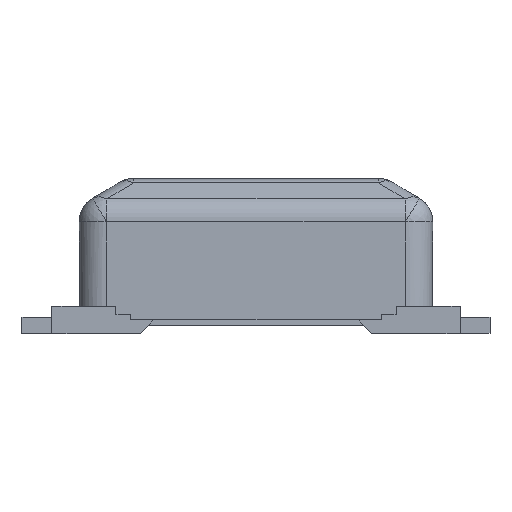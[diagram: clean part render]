
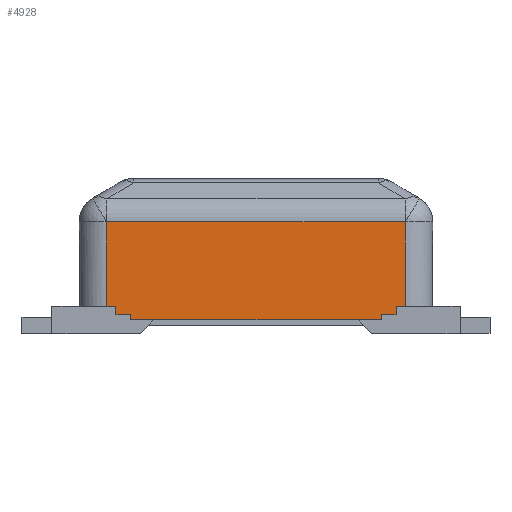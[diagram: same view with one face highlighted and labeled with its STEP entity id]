
A CAD part, left-side view. The second image highlights one B-rep face of the part: STEP entity #4928.
In plain terms, the highlighted planar face has unit normal (-1, 0, 0).
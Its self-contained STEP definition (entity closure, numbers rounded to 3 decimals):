
#3616=CARTESIAN_POINT('Vertex',(6.72,0.55,0.38)) ;
#3723=CARTESIAN_POINT('Vertex',(6.72,-0.549,0.38)) ;
#3819=CARTESIAN_POINT('Vertex',(6.72,0.55,0.07)) ;
#3822=CARTESIAN_POINT('Line Origine',(6.72,0.55,0.225)) ;
#3838=CARTESIAN_POINT('Vertex',(6.72,0.515,0.07)) ;
#3843=CARTESIAN_POINT('Line Origine',(6.72,0.533,0.07)) ;
#4798=CARTESIAN_POINT('Vertex',(6.72,-0.55,0.07)) ;
#4801=CARTESIAN_POINT('Line Origine',(6.72,-0.533,0.07)) ;
#4805=CARTESIAN_POINT('Vertex',(6.72,-0.515,0.07)) ;
#4833=CARTESIAN_POINT('Line Origine',(6.72,-0.55,0.225)) ;
#4850=CARTESIAN_POINT('Line Origine',(6.72,0.,0.381)) ;
#4862=CARTESIAN_POINT('Axis2P3D Location',(6.72,0.,0.)) ;
#4867=CARTESIAN_POINT('Line Origine',(6.72,-0.46,0.03)) ;
#4871=CARTESIAN_POINT('Vertex',(6.72,-0.46,0.02)) ;
#4873=CARTESIAN_POINT('Vertex',(6.72,-0.46,0.04)) ;
#4876=CARTESIAN_POINT('Line Origine',(6.72,-0.488,0.04)) ;
#4880=CARTESIAN_POINT('Vertex',(6.72,-0.515,0.04)) ;
#4883=CARTESIAN_POINT('Line Origine',(6.72,-0.515,0.055)) ;
#4888=CARTESIAN_POINT('Line Origine',(6.72,0.515,0.055)) ;
#4892=CARTESIAN_POINT('Vertex',(6.72,0.515,0.04)) ;
#4895=CARTESIAN_POINT('Line Origine',(6.72,0.488,0.04)) ;
#4899=CARTESIAN_POINT('Vertex',(6.72,0.46,0.04)) ;
#4902=CARTESIAN_POINT('Line Origine',(6.72,0.46,0.03)) ;
#4906=CARTESIAN_POINT('Vertex',(6.72,0.46,0.02)) ;
#4909=CARTESIAN_POINT('Line Origine',(6.72,0.,0.02)) ;
#3823=DIRECTION('Vector Direction',(0.,0.,1.)) ;
#3844=DIRECTION('Vector Direction',(0.,-1.,0.)) ;
#4802=DIRECTION('Vector Direction',(0.,-1.,0.)) ;
#4834=DIRECTION('Vector Direction',(0.,0.,-1.)) ;
#4851=DIRECTION('Vector Direction',(0.,-1.,0.)) ;
#4863=DIRECTION('Axis2P3D Direction',(1.,0.,0.)) ;
#4864=DIRECTION('Axis2P3D XDirection',(0.,1.,0.)) ;
#4868=DIRECTION('Vector Direction',(0.,0.,-1.)) ;
#4877=DIRECTION('Vector Direction',(0.,1.,0.)) ;
#4884=DIRECTION('Vector Direction',(0.,0.,1.)) ;
#4889=DIRECTION('Vector Direction',(0.,0.,1.)) ;
#4896=DIRECTION('Vector Direction',(0.,1.,0.)) ;
#4903=DIRECTION('Vector Direction',(0.,0.,-1.)) ;
#4910=DIRECTION('Vector Direction',(0.,-1.,0.)) ;
#4865=AXIS2_PLACEMENT_3D('Plane Axis2P3D',#4862,#4863,#4864) ;
#4915=ORIENTED_EDGE('',*,*,#4875,.T.) ;
#4916=ORIENTED_EDGE('',*,*,#4882,.T.) ;
#4917=ORIENTED_EDGE('',*,*,#4887,.T.) ;
#4918=ORIENTED_EDGE('',*,*,#4807,.T.) ;
#4919=ORIENTED_EDGE('',*,*,#4837,.T.) ;
#4920=ORIENTED_EDGE('',*,*,#4854,.T.) ;
#4921=ORIENTED_EDGE('',*,*,#3826,.F.) ;
#4922=ORIENTED_EDGE('',*,*,#3847,.F.) ;
#4923=ORIENTED_EDGE('',*,*,#4894,.F.) ;
#4924=ORIENTED_EDGE('',*,*,#4901,.F.) ;
#4925=ORIENTED_EDGE('',*,*,#4908,.F.) ;
#4926=ORIENTED_EDGE('',*,*,#4913,.F.) ;
#3824=VECTOR('Line Direction',#3823,1.) ;
#3845=VECTOR('Line Direction',#3844,1.) ;
#4803=VECTOR('Line Direction',#4802,1.) ;
#4835=VECTOR('Line Direction',#4834,1.) ;
#4852=VECTOR('Line Direction',#4851,1.) ;
#4869=VECTOR('Line Direction',#4868,1.) ;
#4878=VECTOR('Line Direction',#4877,1.) ;
#4885=VECTOR('Line Direction',#4884,1.) ;
#4890=VECTOR('Line Direction',#4889,1.) ;
#4897=VECTOR('Line Direction',#4896,1.) ;
#4904=VECTOR('Line Direction',#4903,1.) ;
#4911=VECTOR('Line Direction',#4910,1.) ;
#4928=ADVANCED_FACE('\X2\FF8AFF9FFF70FF82\X0\ \X2\FF8EFF9EFF83FF9EFF68FF70\X0\',(#4927),#4866,.F.) ;
#3826=EDGE_CURVE('',#3820,#3617,#3825,.T.) ;
#3847=EDGE_CURVE('',#3839,#3820,#3846,.F.) ;
#4807=EDGE_CURVE('',#4806,#4799,#4804,.T.) ;
#4837=EDGE_CURVE('',#4799,#3724,#4836,.F.) ;
#4854=EDGE_CURVE('',#3724,#3617,#4853,.F.) ;
#4875=EDGE_CURVE('',#4872,#4874,#4870,.F.) ;
#4882=EDGE_CURVE('',#4874,#4881,#4879,.F.) ;
#4887=EDGE_CURVE('',#4881,#4806,#4886,.T.) ;
#4894=EDGE_CURVE('',#4893,#3839,#4891,.T.) ;
#4901=EDGE_CURVE('',#4900,#4893,#4898,.T.) ;
#4908=EDGE_CURVE('',#4907,#4900,#4905,.F.) ;
#4913=EDGE_CURVE('',#4872,#4907,#4912,.F.) ;
#4914=EDGE_LOOP('',(#4915,#4916,#4917,#4918,#4919,#4920,#4921,#4922,#4923,#4924,#4925,#4926)) ;
#4927=FACE_OUTER_BOUND('',#4914,.T.) ;
#3825=LINE('Line',#3822,#3824) ;
#3846=LINE('Line',#3843,#3845) ;
#4804=LINE('Line',#4801,#4803) ;
#4836=LINE('Line',#4833,#4835) ;
#4853=LINE('Line',#4850,#4852) ;
#4870=LINE('Line',#4867,#4869) ;
#4879=LINE('Line',#4876,#4878) ;
#4886=LINE('Line',#4883,#4885) ;
#4891=LINE('Line',#4888,#4890) ;
#4898=LINE('Line',#4895,#4897) ;
#4905=LINE('Line',#4902,#4904) ;
#4912=LINE('Line',#4909,#4911) ;
#4866=PLANE('',#4865) ;
#3617=VERTEX_POINT('',#3616) ;
#3724=VERTEX_POINT('',#3723) ;
#3820=VERTEX_POINT('',#3819) ;
#3839=VERTEX_POINT('',#3838) ;
#4799=VERTEX_POINT('',#4798) ;
#4806=VERTEX_POINT('',#4805) ;
#4872=VERTEX_POINT('',#4871) ;
#4874=VERTEX_POINT('',#4873) ;
#4881=VERTEX_POINT('',#4880) ;
#4893=VERTEX_POINT('',#4892) ;
#4900=VERTEX_POINT('',#4899) ;
#4907=VERTEX_POINT('',#4906) ;
